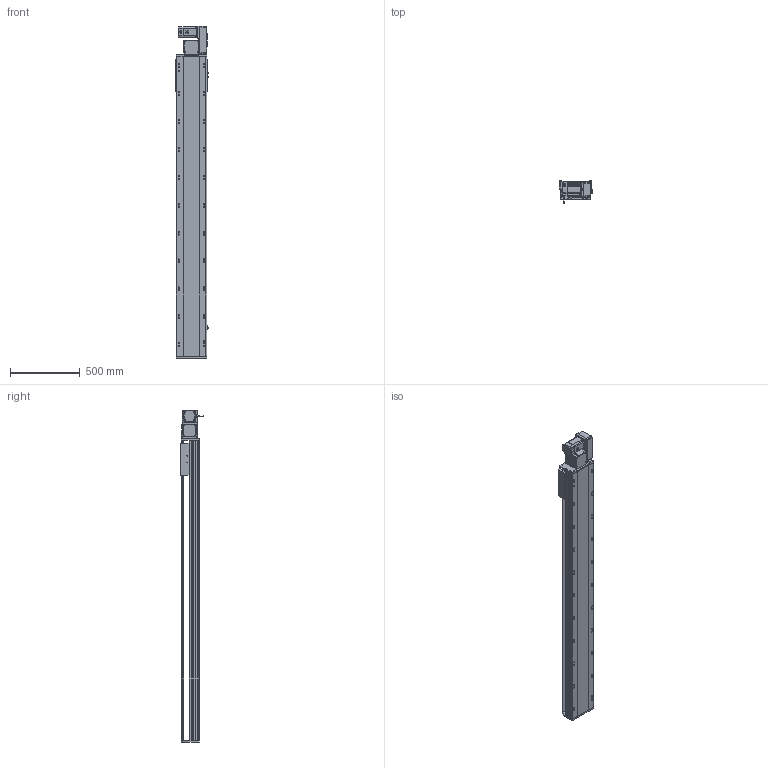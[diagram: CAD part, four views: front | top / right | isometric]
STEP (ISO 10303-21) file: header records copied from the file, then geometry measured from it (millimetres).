
FILE_DESCRIPTION (( 'STEP AP214' ), '1' );
FILE_NAME ('RTB22S-XX-1800-R-M75-C4.STEP', '2025-12-12T07:24:06', ( '' ), ( '' ), 'SwSTEP 2.0', 'SolidWorks 2018', '' );
FILE_SCHEMA (( 'AUTOMOTIVE_DESIGN' ));
Length unit declared in the file: millimetre
Products named in the file (14): RTB22S-L-011菁釱^RTB22S-XX-XX-R-M75-C4; RTB22S-XX-1800-R-M75-C4; RTB22S-GY-005P^RTB22S-R-々湍釱蚾饜_RTB22S-XX-XX-R-M75-C4; OMRON EE-SX672 传感器^RTB22S-XX-XX-R-M75-C4; RTB22S-GY-018P^RTB22S-R-々湍釱蚾饜_RTB22S-XX-XX-R-M75-C4; 750W萇儂^RTB22S-XX-XX-R-M75-C4; RTB22S-GY-014--々湍釱^RTB22S-R-々湍釱蚾饜_RTB22S-XX-XX-R-M75-C4; RTB22S-GY-017P^RTB22S-R-々湍釱蚾饜_RTB22S-XX-XX-R-M75-C4; RTB22S-R-々湍釱蚾饜^RTB22S-XX-XX-R-M75-C4; RTB22S-GY-007奻裔^RTB22S-XX-XX-R-M75-C4; RTB22S-L-004賑釱^RTB22S-XX-XX-R-M75-C4; RTH22-GY-013外置感应片^RTB22S-XX-XX-R-M75-C4; RTB22S-GY-001耜裔^RTB22S-XX-XX-R-M75-C4; RTB22S-GY-008-M75--萇儂啣^RTB22S-R-々湍釱蚾饜_RTB22S-XX-XX-R-M75-C4
Assembly tree (16 placements, depth 3):
  RTB22S-XX-1800-R-M75-C4
    RTB22S-L-011菁釱^RTB22S-XX-XX-R-M75-C4
    RTB22S-GY-001耜裔^RTB22S-XX-XX-R-M75-C4
    750W萇儂^RTB22S-XX-XX-R-M75-C4
    RTB22S-GY-007奻裔^RTB22S-XX-XX-R-M75-C4
    RTB22S-L-004賑釱^RTB22S-XX-XX-R-M75-C4
    RTH22-GY-013外置感应片^RTB22S-XX-XX-R-M75-C4
    OMRON EE-SX672 传感器^RTB22S-XX-XX-R-M75-C4  x3
    RTB22S-R-々湍釱蚾饜^RTB22S-XX-XX-R-M75-C4
      RTB22S-GY-014--々湍釱^RTB22S-R-々湍釱蚾饜_RTB22S-XX-XX-R-M75-C4
      RTB22S-GY-017P^RTB22S-R-々湍釱蚾饜_RTB22S-XX-XX-R-M75-C4  x2
      RTB22S-GY-005P^RTB22S-R-々湍釱蚾饜_RTB22S-XX-XX-R-M75-C4
      RTB22S-GY-008-M75--萇儂啣^RTB22S-R-々湍釱蚾饜_RTB22S-XX-XX-R-M75-C4
      RTB22S-GY-018P^RTB22S-R-々湍釱蚾饜_RTB22S-XX-XX-R-M75-C4
Bounding box: 238.5 x 162.7 x 2379 mm (x, y, z)
Volume: 30612968.6 mm3; surface area: 3147150.3 mm2
Topology: 15 solids, 15 shells, 2037 faces, 5536 edges, 3542 vertices
Faces by surface type: plane 921, cylinder 658, bspline 296, cone 150, sphere 8, torus 4
Entity records: 54742 total; most frequent: CARTESIAN_POINT 15616, ORIENTED_EDGE 7836, DIRECTION 7592, EDGE_CURVE 3918, AXIS2_PLACEMENT_3D 2698, VERTEX_POINT 2546, VECTOR 2196, LINE 2196
